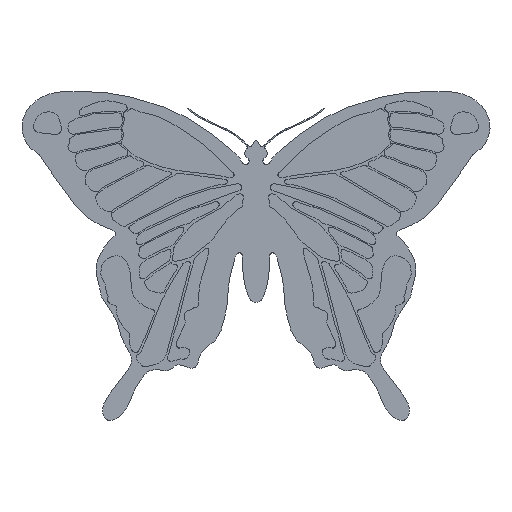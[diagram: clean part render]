
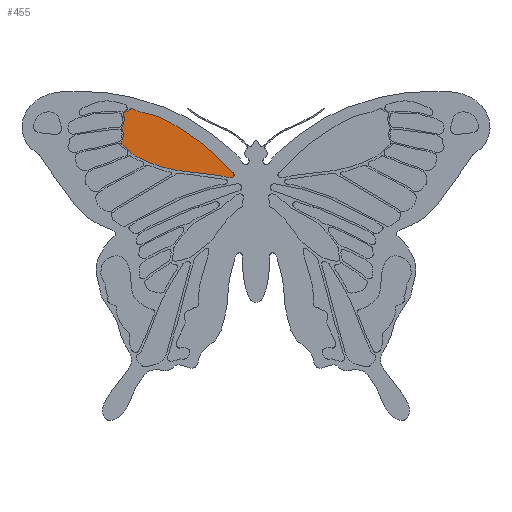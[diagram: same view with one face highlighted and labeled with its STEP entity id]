
A CAD part, top view. The second image highlights one B-rep face of the part: STEP entity #455.
In plain terms, the highlighted planar face has unit normal (0, 0, 1).
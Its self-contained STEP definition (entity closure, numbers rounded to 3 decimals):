
#455=ADVANCED_FACE('',(#610),#495,.T.);
#495=PLANE('',#1819);
#610=FACE_OUTER_BOUND('',#762,.T.);
#762=EDGE_LOOP('',(#1203,#1204));
#1203=ORIENTED_EDGE('',*,*,#1635,.T.);
#1204=ORIENTED_EDGE('',*,*,#1449,.T.);
#1293=VERTEX_POINT('',#2750);
#1294=VERTEX_POINT('',#2751);
#1449=EDGE_CURVE('',#1293,#1294,#1667,.T.);
#1635=EDGE_CURVE('',#1294,#1293,#1791,.T.);
#1667=B_SPLINE_CURVE_WITH_KNOTS('',3,(#2729,#2730,#2731,#2732,#2733,#2734,
#2735,#2736,#2737,#2738,#2739,#2740,#2741,#2742,#2743,#2744,#2745,#2746,
#2747,#2748,#2749),.UNSPECIFIED.,.F.,.F.,(4,1,1,1,1,1,1,1,1,1,1,1,1,1,1,
1,1,1,4),(0.,0.145,0.309,0.467,0.724,
0.788,0.816,0.831,0.856,
0.874,0.891,0.9,0.909,
0.92,0.938,0.957,0.978,
0.994,1.),.UNSPECIFIED.);
#1791=B_SPLINE_CURVE_WITH_KNOTS('',3,(#8037,#8038,#8039,#8040,#8041,#8042,
#8043,#8044,#8045,#8046,#8047,#8048,#8049,#8050,#8051,#8052,#8053,#8054,
#8055,#8056,#8057,#8058,#8059,#8060,#8061,#8062,#8063,#8064),
 .UNSPECIFIED.,.F.,.F.,(4,1,1,1,1,1,1,1,1,1,1,1,1,1,1,1,1,1,1,1,1,1,1,1,
1,4),(0.,0.001,0.025,0.046,0.066,
0.089,0.098,0.109,0.136,
0.17,0.201,0.244,0.306,0.355,
0.441,0.519,0.552,0.617,
0.754,0.837,0.887,0.918,
0.938,0.957,0.975,1.),.UNSPECIFIED.);
#1819=AXIS2_PLACEMENT_3D('',#8678,#1948,#1949);
#1948=DIRECTION('',(0.,0.,1.));
#1949=DIRECTION('',(0.,-1.,0.));
#2729=CARTESIAN_POINT('',(-11.247,119.856,0.2));
#2730=CARTESIAN_POINT('',(-13.738,121.781,0.2));
#2731=CARTESIAN_POINT('',(-17.936,126.979,0.2));
#2732=CARTESIAN_POINT('',(-25.87,133.254,0.2));
#2733=CARTESIAN_POINT('',(-36.054,140.364,0.2));
#2734=CARTESIAN_POINT('',(-45.334,145.356,0.2));
#2735=CARTESIAN_POINT('',(-53.009,146.157,0.2));
#2736=CARTESIAN_POINT('',(-54.904,147.553,0.2));
#2737=CARTESIAN_POINT('',(-56.467,147.678,0.2));
#2738=CARTESIAN_POINT('',(-57.457,146.723,0.2));
#2739=CARTESIAN_POINT('',(-58.582,146.197,0.2));
#2740=CARTESIAN_POINT('',(-59.629,145.854,0.2));
#2741=CARTESIAN_POINT('',(-59.725,145.046,0.2));
#2742=CARTESIAN_POINT('',(-59.687,144.422,0.2));
#2743=CARTESIAN_POINT('',(-59.233,143.709,0.2));
#2744=CARTESIAN_POINT('',(-59.158,142.645,0.2));
#2745=CARTESIAN_POINT('',(-59.469,141.447,0.2));
#2746=CARTESIAN_POINT('',(-59.692,140.272,0.2));
#2747=CARTESIAN_POINT('',(-60.288,139.486,0.2));
#2748=CARTESIAN_POINT('',(-60.281,138.996,0.2));
#2749=CARTESIAN_POINT('',(-60.265,138.856,0.2));
#2750=CARTESIAN_POINT('',(-11.247,119.856,0.2));
#2751=CARTESIAN_POINT('',(-60.265,138.856,0.2));
#8037=CARTESIAN_POINT('',(-60.265,138.856,0.2));
#8038=CARTESIAN_POINT('',(-60.263,138.837,0.2));
#8039=CARTESIAN_POINT('',(-60.196,138.299,0.2));
#8040=CARTESIAN_POINT('',(-59.749,137.399,0.2));
#8041=CARTESIAN_POINT('',(-59.678,135.964,0.2));
#8042=CARTESIAN_POINT('',(-59.798,134.601,0.2));
#8043=CARTESIAN_POINT('',(-60.078,133.485,0.2));
#8044=CARTESIAN_POINT('',(-60.431,132.674,0.2));
#8045=CARTESIAN_POINT('',(-61.038,131.68,0.2));
#8046=CARTESIAN_POINT('',(-59.062,130.795,0.2));
#8047=CARTESIAN_POINT('',(-57.806,129.53,0.2));
#8048=CARTESIAN_POINT('',(-56.233,127.742,0.2));
#8049=CARTESIAN_POINT('',(-53.947,125.86,0.2));
#8050=CARTESIAN_POINT('',(-50.707,124.911,0.2));
#8051=CARTESIAN_POINT('',(-46.977,122.911,0.2));
#8052=CARTESIAN_POINT('',(-42.593,121.469,0.2));
#8053=CARTESIAN_POINT('',(-38.438,120.617,0.2));
#8054=CARTESIAN_POINT('',(-34.773,119.61,0.2));
#8055=CARTESIAN_POINT('',(-29.668,119.662,0.2));
#8056=CARTESIAN_POINT('',(-23.629,118.59,0.2));
#8057=CARTESIAN_POINT('',(-17.884,117.8,0.2));
#8058=CARTESIAN_POINT('',(-14.374,117.299,0.2));
#8059=CARTESIAN_POINT('',(-12.326,116.533,0.2));
#8060=CARTESIAN_POINT('',(-10.761,116.518,0.2));
#8061=CARTESIAN_POINT('',(-9.682,117.48,0.2));
#8062=CARTESIAN_POINT('',(-10.051,118.978,0.2));
#8063=CARTESIAN_POINT('',(-10.824,119.529,0.2));
#8064=CARTESIAN_POINT('',(-11.247,119.856,0.2));
#8678=CARTESIAN_POINT('',(74.688,155.373,0.2));
